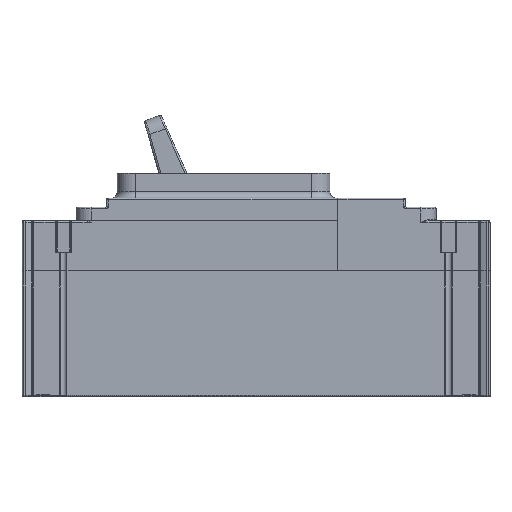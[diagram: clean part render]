
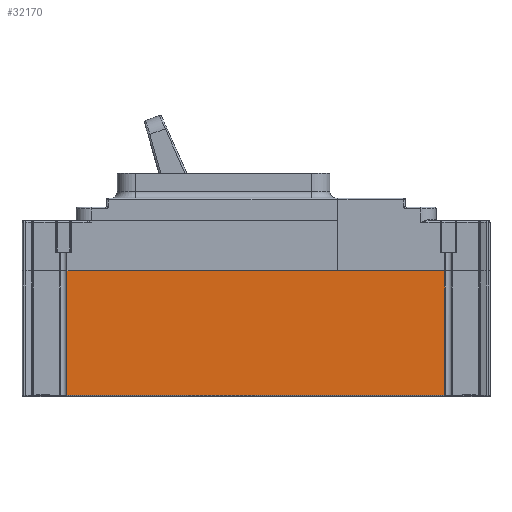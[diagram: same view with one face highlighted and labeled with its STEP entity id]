
A CAD part, top view. The second image highlights one B-rep face of the part: STEP entity #32170.
In plain terms, the highlighted planar face has unit normal (0, 0, 1).
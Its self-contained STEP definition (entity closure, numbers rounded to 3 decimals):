
#1954=CARTESIAN_POINT('',(105.,0.,70.));
#8290=DIRECTION('',(0.,1.,0.));
#8291=VECTOR('',#8290,69.);
#8292=CARTESIAN_POINT('',(105.,-69.,70.));
#8293=LINE('',#8292,#8291);
#8298=DIRECTION('',(1.,0.,0.));
#8299=VECTOR('',#8298,210.);
#8300=CARTESIAN_POINT('',(-105.,0.,70.));
#8301=LINE('',#8300,#8299);
#8306=DIRECTION('',(1.,0.,0.));
#8307=VECTOR('',#8306,210.);
#8308=CARTESIAN_POINT('',(-105.,-69.,70.));
#8309=LINE('',#8308,#8307);
#8329=DIRECTION('',(0.,-1.,0.));
#8330=VECTOR('',#8329,69.);
#8331=CARTESIAN_POINT('',(-105.,0.,70.));
#8332=LINE('',#8331,#8330);
#16579=VERTEX_POINT('',#1954);
#16580=CARTESIAN_POINT('',(-105.,0.,70.));
#16581=VERTEX_POINT('',#16580);
#18276=CARTESIAN_POINT('',(-105.,-69.,70.));
#18277=CARTESIAN_POINT('',(105.,-69.,70.));
#18278=VERTEX_POINT('',#18276);
#18279=VERTEX_POINT('',#18277);
#32157=CARTESIAN_POINT('',(0.,0.,70.));
#32158=DIRECTION('',(0.,0.,1.));
#32159=DIRECTION('',(1.,0.,0.));
#32160=AXIS2_PLACEMENT_3D('',#32157,#32158,#32159);
#32161=PLANE('',#32160);
#32163=ORIENTED_EDGE('',*,*,#32162,.F.);
#32165=ORIENTED_EDGE('',*,*,#32164,.F.);
#32166=ORIENTED_EDGE('',*,*,#22007,.T.);
#32167=ORIENTED_EDGE('',*,*,#32150,.F.);
#32168=EDGE_LOOP('',(#32163,#32165,#32166,#32167));
#32169=FACE_OUTER_BOUND('',#32168,.F.);
#32170=ADVANCED_FACE('',(#32169),#32161,.T.);
#22007=EDGE_CURVE('',#16581,#16579,#8301,.T.);
#32150=EDGE_CURVE('',#18279,#16579,#8293,.T.);
#32162=EDGE_CURVE('',#18278,#18279,#8309,.T.);
#32164=EDGE_CURVE('',#16581,#18278,#8332,.T.);
